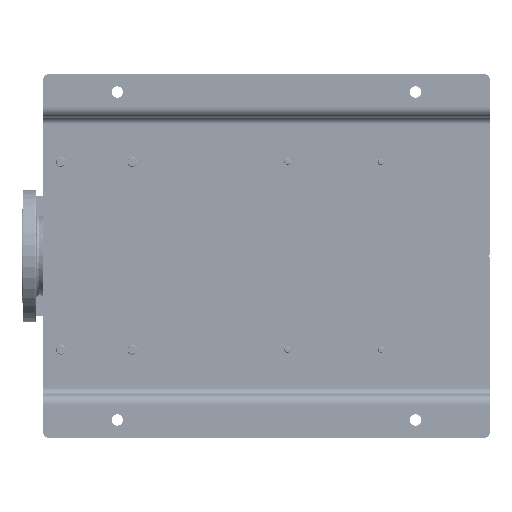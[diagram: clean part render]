
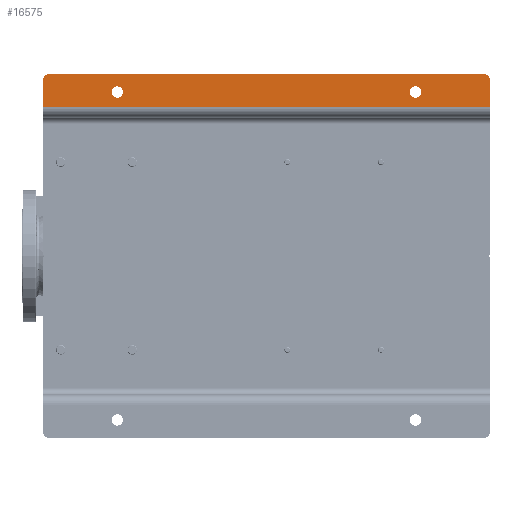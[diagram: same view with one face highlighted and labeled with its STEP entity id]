
A CAD part, front view. The second image highlights one B-rep face of the part: STEP entity #16575.
In plain terms, the highlighted planar face has unit normal (0, -1, 0).
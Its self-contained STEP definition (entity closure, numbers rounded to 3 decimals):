
#780 = DIRECTION ( 'NONE',  ( 0., 1., 0. ) ) ;
#11731 = CARTESIAN_POINT ( 'NONE',  ( 600., 0., -750. ) ) ;
#12172 = EDGE_LOOP ( 'NONE', ( #96143, #56876 ) ) ;
#12300 = CARTESIAN_POINT ( 'NONE',  ( 555., 0., -750. ) ) ;
#13563 = VERTEX_POINT ( 'NONE', #123188 ) ;
#13807 = DIRECTION ( 'NONE',  ( 0., 0., -1. ) ) ;
#15158 = LINE ( 'NONE', #75028, #156074 ) ;
#15188 = DIRECTION ( 'NONE',  ( 0., 0., -1. ) ) ;
#16575 = ADVANCED_FACE ( 'NONE', ( #177798, #194458, #88388 ), #149291, .T. ) ;
#18426 = DIRECTION ( 'NONE',  ( 0., 0., -1. ) ) ;
#18928 = CARTESIAN_POINT ( 'NONE',  ( 610., 0., -10. ) ) ;
#22935 = VERTEX_POINT ( 'NONE', #153044 ) ;
#27240 = EDGE_CURVE ( 'NONE', #29584, #22935, #180528, .T. ) ;
#28369 = CARTESIAN_POINT ( 'NONE',  ( 600., 0., -740. ) ) ;
#29584 = VERTEX_POINT ( 'NONE', #86360 ) ;
#30362 = ORIENTED_EDGE ( 'NONE', *, *, #120844, .T. ) ;
#30787 = VERTEX_POINT ( 'NONE', #18928 ) ;
#37549 = DIRECTION ( 'NONE',  ( 0., 0., -1. ) ) ;
#38547 = CARTESIAN_POINT ( 'NONE',  ( 589.5, 0., -125. ) ) ;
#38755 = ORIENTED_EDGE ( 'NONE', *, *, #40140, .T. ) ;
#40140 = EDGE_CURVE ( 'NONE', #163168, #30787, #136849, .T. ) ;
#40343 = EDGE_CURVE ( 'NONE', #59204, #77716, #192671, .T. ) ;
#40478 = CARTESIAN_POINT ( 'NONE',  ( 600., 0., -10. ) ) ;
#41408 = ORIENTED_EDGE ( 'NONE', *, *, #169840, .T. ) ;
#42588 = AXIS2_PLACEMENT_3D ( 'NONE', #45014, #104935, #93085 ) ;
#43242 = DIRECTION ( 'NONE',  ( 0., -1., 0. ) ) ;
#45014 = CARTESIAN_POINT ( 'NONE',  ( 580., 0., -625. ) ) ;
#45754 = AXIS2_PLACEMENT_3D ( 'NONE', #40478, #144610, #37549 ) ;
#56876 = ORIENTED_EDGE ( 'NONE', *, *, #70671, .T. ) ;
#57096 = DIRECTION ( 'NONE',  ( 1., 0., 0. ) ) ;
#59204 = VERTEX_POINT ( 'NONE', #189206 ) ;
#62025 = VERTEX_POINT ( 'NONE', #184403 ) ;
#70671 = EDGE_CURVE ( 'NONE', #22935, #29584, #116347, .T. ) ;
#72139 = ORIENTED_EDGE ( 'NONE', *, *, #129510, .F. ) ;
#73531 = DIRECTION ( 'NONE',  ( 0., 0., -1. ) ) ;
#73906 = CIRCLE ( 'NONE', #45754, 10. ) ;
#75028 = CARTESIAN_POINT ( 'NONE',  ( 537., 0., 0. ) ) ;
#76168 = CIRCLE ( 'NONE', #82342, 10. ) ;
#76916 = CARTESIAN_POINT ( 'NONE',  ( 580., 0., -125. ) ) ;
#77490 = DIRECTION ( 'NONE',  ( 0., 0., -1. ) ) ;
#77716 = VERTEX_POINT ( 'NONE', #11731 ) ;
#78789 = DIRECTION ( 'NONE',  ( 0., 0., 1. ) ) ;
#81246 = DIRECTION ( 'NONE',  ( 0., 1., 0. ) ) ;
#82342 = AXIS2_PLACEMENT_3D ( 'NONE', #28369, #88292, #73531 ) ;
#84183 = AXIS2_PLACEMENT_3D ( 'NONE', #122566, #780, #18426 ) ;
#86360 = CARTESIAN_POINT ( 'NONE',  ( 570.5, 0., -625. ) ) ;
#88292 = DIRECTION ( 'NONE',  ( 0., -1., 0. ) ) ;
#88388 = FACE_OUTER_BOUND ( 'NONE', #103083, .T. ) ;
#88879 = LINE ( 'NONE', #12300, #116069 ) ;
#90699 = DIRECTION ( 'NONE',  ( 0., 1., 0. ) ) ;
#91806 = CARTESIAN_POINT ( 'NONE',  ( 555., 0., 0. ) ) ;
#93085 = DIRECTION ( 'NONE',  ( 0., 0., -1. ) ) ;
#93575 = CIRCLE ( 'NONE', #84183, 9.5 ) ;
#96143 = ORIENTED_EDGE ( 'NONE', *, *, #27240, .T. ) ;
#97879 = AXIS2_PLACEMENT_3D ( 'NONE', #76916, #90699, #13807 ) ;
#103083 = EDGE_LOOP ( 'NONE', ( #72139, #30362, #145717, #141570, #38755, #175381 ) ) ;
#104092 = CARTESIAN_POINT ( 'NONE',  ( 537., 0., -750. ) ) ;
#104935 = DIRECTION ( 'NONE',  ( 0., 1., 0. ) ) ;
#105429 = CARTESIAN_POINT ( 'NONE',  ( 610., 0., -750. ) ) ;
#109304 = VERTEX_POINT ( 'NONE', #38547 ) ;
#116069 = VECTOR ( 'NONE', #15188, 1000. ) ;
#116347 = CIRCLE ( 'NONE', #138213, 9.5 ) ;
#116449 = ORIENTED_EDGE ( 'NONE', *, *, #181088, .T. ) ;
#120844 = EDGE_CURVE ( 'NONE', #131356, #59204, #88879, .T. ) ;
#122566 = CARTESIAN_POINT ( 'NONE',  ( 580., 0., -125. ) ) ;
#123188 = CARTESIAN_POINT ( 'NONE',  ( 570.5, 0., -125. ) ) ;
#128526 = EDGE_LOOP ( 'NONE', ( #41408, #116449 ) ) ;
#129510 = EDGE_CURVE ( 'NONE', #131356, #62025, #15158, .T. ) ;
#131356 = VERTEX_POINT ( 'NONE', #91806 ) ;
#136849 = LINE ( 'NONE', #105429, #154676 ) ;
#138213 = AXIS2_PLACEMENT_3D ( 'NONE', #153058, #81246, #142166 ) ;
#141570 = ORIENTED_EDGE ( 'NONE', *, *, #151099, .T. ) ;
#142166 = DIRECTION ( 'NONE',  ( 0., 0., -1. ) ) ;
#144610 = DIRECTION ( 'NONE',  ( 0., -1., 0. ) ) ;
#145327 = VECTOR ( 'NONE', #57096, 1000. ) ;
#145717 = ORIENTED_EDGE ( 'NONE', *, *, #40343, .T. ) ;
#146871 = DIRECTION ( 'NONE',  ( 1., 0., 0. ) ) ;
#149291 = PLANE ( 'NONE',  #166550 ) ;
#151099 = EDGE_CURVE ( 'NONE', #77716, #163168, #76168, .T. ) ;
#153044 = CARTESIAN_POINT ( 'NONE',  ( 589.5, 0., -625. ) ) ;
#153058 = CARTESIAN_POINT ( 'NONE',  ( 580., 0., -625. ) ) ;
#154676 = VECTOR ( 'NONE', #78789, 1000. ) ;
#155953 = CARTESIAN_POINT ( 'NONE',  ( 610., 0., -740. ) ) ;
#156074 = VECTOR ( 'NONE', #146871, 1000. ) ;
#157360 = EDGE_CURVE ( 'NONE', #30787, #62025, #73906, .T. ) ;
#163168 = VERTEX_POINT ( 'NONE', #155953 ) ;
#166550 = AXIS2_PLACEMENT_3D ( 'NONE', #104092, #43242, #77490 ) ;
#166875 = CIRCLE ( 'NONE', #97879, 9.5 ) ;
#169840 = EDGE_CURVE ( 'NONE', #13563, #109304, #93575, .T. ) ;
#175381 = ORIENTED_EDGE ( 'NONE', *, *, #157360, .T. ) ;
#177798 = FACE_BOUND ( 'NONE', #128526, .T. ) ;
#180528 = CIRCLE ( 'NONE', #42588, 9.5 ) ;
#181088 = EDGE_CURVE ( 'NONE', #109304, #13563, #166875, .T. ) ;
#184403 = CARTESIAN_POINT ( 'NONE',  ( 600., 0., 0. ) ) ;
#189206 = CARTESIAN_POINT ( 'NONE',  ( 555., 0., -750. ) ) ;
#189732 = CARTESIAN_POINT ( 'NONE',  ( 537., 0., -750. ) ) ;
#192671 = LINE ( 'NONE', #189732, #145327 ) ;
#194458 = FACE_BOUND ( 'NONE', #12172, .T. ) ;
